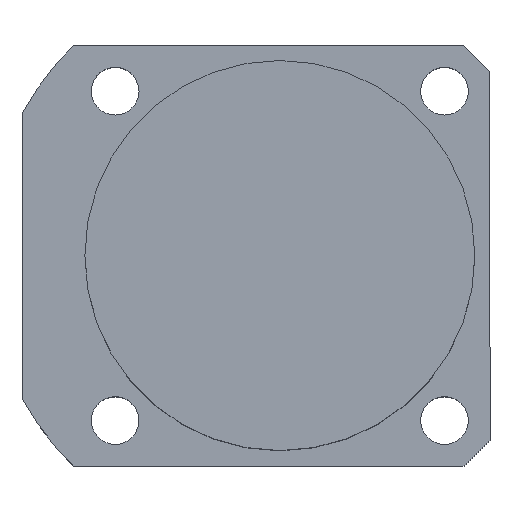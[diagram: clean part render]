
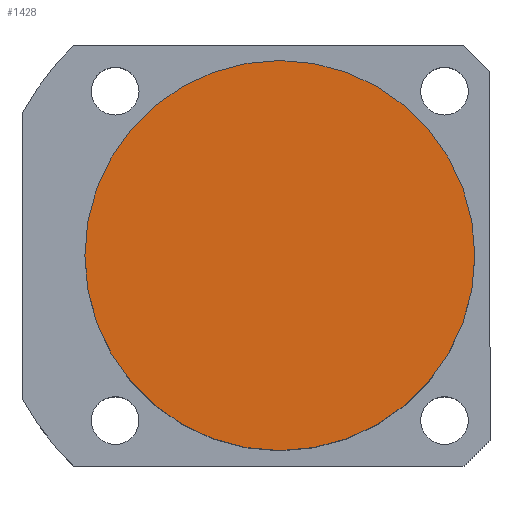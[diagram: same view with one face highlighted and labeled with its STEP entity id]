
A CAD part, top view. The second image highlights one B-rep face of the part: STEP entity #1428.
In plain terms, the highlighted planar face has unit normal (0, 0, 1).
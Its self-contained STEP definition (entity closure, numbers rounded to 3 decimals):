
#9 = DIRECTION ( 'NONE',  ( 0., 0., 1. ) ) ;
#34 = PLANE ( 'NONE',  #333 ) ;
#145 = DIRECTION ( 'NONE',  ( 0., 0., 1. ) ) ;
#158 = AXIS2_PLACEMENT_3D ( 'NONE', #1510, #9, #280 ) ;
#280 = DIRECTION ( 'NONE',  ( 1., 0., 0. ) ) ;
#286 = VERTEX_POINT ( 'NONE', #379 ) ;
#333 = AXIS2_PLACEMENT_3D ( 'NONE', #1254, #442, #1392 ) ;
#377 = CIRCLE ( 'NONE', #158, 45. ) ;
#379 = CARTESIAN_POINT ( 'NONE',  ( 45., 0., 59.5 ) ) ;
#391 = EDGE_CURVE ( 'NONE', #286, #776, #659, .T. ) ;
#442 = DIRECTION ( 'NONE',  ( 0., 0., 1. ) ) ;
#603 = ORIENTED_EDGE ( 'NONE', *, *, #391, .T. ) ;
#659 = CIRCLE ( 'NONE', #1460, 45. ) ;
#776 = VERTEX_POINT ( 'NONE', #1608 ) ;
#815 = EDGE_CURVE ( 'NONE', #776, #286, #377, .T. ) ;
#1103 = EDGE_LOOP ( 'NONE', ( #1420, #603 ) ) ;
#1104 = DIRECTION ( 'NONE',  ( 1., 0., 0. ) ) ;
#1227 = CARTESIAN_POINT ( 'NONE',  ( 0., 0., 59.5 ) ) ;
#1254 = CARTESIAN_POINT ( 'NONE',  ( 0., 0., 59.5 ) ) ;
#1392 = DIRECTION ( 'NONE',  ( 1., 0., 0. ) ) ;
#1420 = ORIENTED_EDGE ( 'NONE', *, *, #815, .T. ) ;
#1428 = ADVANCED_FACE ( 'NONE', ( #1707 ), #34, .T. ) ;
#1460 = AXIS2_PLACEMENT_3D ( 'NONE', #1227, #145, #1104 ) ;
#1510 = CARTESIAN_POINT ( 'NONE',  ( 0., 0., 59.5 ) ) ;
#1608 = CARTESIAN_POINT ( 'NONE',  ( -45., 0., 59.5 ) ) ;
#1707 = FACE_OUTER_BOUND ( 'NONE', #1103, .T. ) ;
